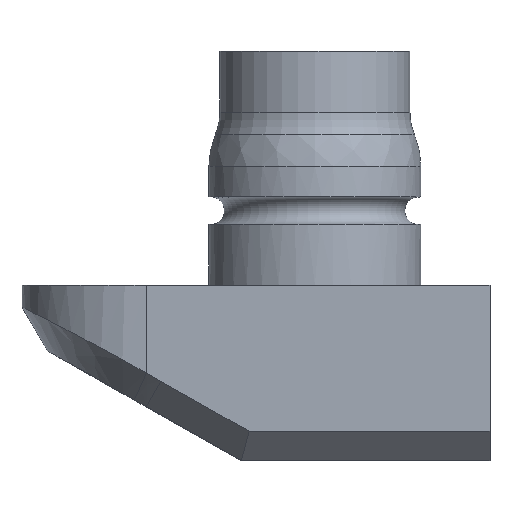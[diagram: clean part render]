
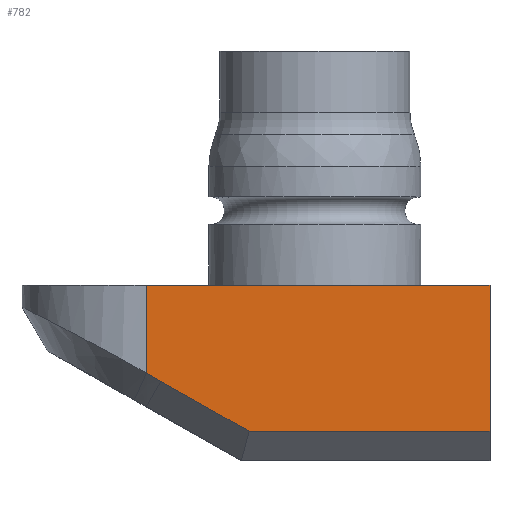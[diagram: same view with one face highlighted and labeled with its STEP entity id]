
A CAD part, top view. The second image highlights one B-rep face of the part: STEP entity #782.
In plain terms, the highlighted planar face has unit normal (0, 0, 1).
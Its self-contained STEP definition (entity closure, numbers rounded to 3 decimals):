
#39=B_SPLINE_CURVE_WITH_KNOTS('',3,(#1272,#1273,#1274,#1275),
 .UNSPECIFIED.,.F.,.F.,(4,4),(-1.571,-1.455),
 .UNSPECIFIED.);
#58=PLANE('',#841);
#93=FACE_OUTER_BOUND('',#138,.T.);
#138=EDGE_LOOP('',(#590,#591,#592,#593,#594,#595));
#195=LINE('',#1248,#267);
#197=LINE('',#1252,#269);
#206=LINE('',#1296,#278);
#207=LINE('',#1300,#279);
#208=LINE('',#1301,#280);
#267=VECTOR('',#926,10.);
#269=VECTOR('',#930,10.);
#278=VECTOR('',#949,10.);
#279=VECTOR('',#954,10.);
#280=VECTOR('',#955,10.);
#360=VERTEX_POINT('',#1201);
#363=VERTEX_POINT('',#1245);
#364=VERTEX_POINT('',#1247);
#365=VERTEX_POINT('',#1251);
#371=VERTEX_POINT('',#1295);
#372=VERTEX_POINT('',#1299);
#443=EDGE_CURVE('',#363,#364,#195,.T.);
#445=EDGE_CURVE('',#364,#365,#197,.T.);
#448=EDGE_CURVE('',#365,#360,#39,.T.);
#457=EDGE_CURVE('',#360,#371,#206,.T.);
#459=EDGE_CURVE('',#363,#372,#207,.T.);
#460=EDGE_CURVE('',#371,#372,#208,.T.);
#590=ORIENTED_EDGE('',*,*,#448,.F.);
#591=ORIENTED_EDGE('',*,*,#445,.F.);
#592=ORIENTED_EDGE('',*,*,#443,.F.);
#593=ORIENTED_EDGE('',*,*,#459,.T.);
#594=ORIENTED_EDGE('',*,*,#460,.F.);
#595=ORIENTED_EDGE('',*,*,#457,.F.);
#782=ADVANCED_FACE('',(#93),#58,.T.);
#841=AXIS2_PLACEMENT_3D('',#1298,#952,#953);
#926=DIRECTION('',(-1.,0.,0.));
#930=DIRECTION('',(-0.87,0.493,0.));
#949=DIRECTION('',(0.,1.,0.));
#952=DIRECTION('center_axis',(0.,0.,1.));
#953=DIRECTION('ref_axis',(1.,0.,0.));
#954=DIRECTION('',(0.,1.,0.));
#955=DIRECTION('',(1.,0.,0.));
#1201=CARTESIAN_POINT('',(-66.5,1.981,43.));
#1245=CARTESIAN_POINT('',(-43.,-2.,43.));
#1247=CARTESIAN_POINT('',(-59.473,-2.,43.));
#1248=CARTESIAN_POINT('',(-66.5,-2.,43.));
#1251=CARTESIAN_POINT('',(-65.514,1.423,43.));
#1252=CARTESIAN_POINT('',(-69.832,3.87,43.));
#1272=CARTESIAN_POINT('Ctrl Pts',(-65.514,1.423,43.));
#1273=CARTESIAN_POINT('Ctrl Pts',(-65.842,1.609,43.));
#1274=CARTESIAN_POINT('Ctrl Pts',(-66.169,1.795,43.));
#1275=CARTESIAN_POINT('Ctrl Pts',(-66.5,1.981,43.));
#1295=CARTESIAN_POINT('',(-66.5,8.,43.));
#1296=CARTESIAN_POINT('',(-66.5,0.,43.));
#1298=CARTESIAN_POINT('Origin',(-66.5,0.,43.));
#1299=CARTESIAN_POINT('',(-43.,8.,43.));
#1300=CARTESIAN_POINT('',(-43.,0.,43.));
#1301=CARTESIAN_POINT('',(-43.,8.,43.));
